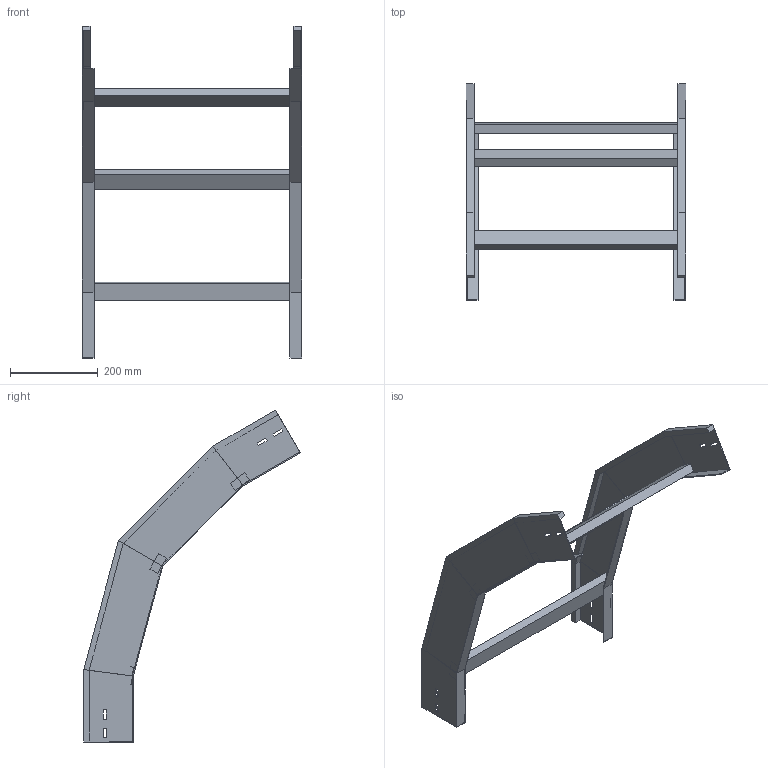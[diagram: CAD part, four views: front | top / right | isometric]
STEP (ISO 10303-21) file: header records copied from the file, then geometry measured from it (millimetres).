
FILE_DESCRIPTION (( 'STEP AP214' ), '1' );
FILE_NAME ('41B5J500.step', '2025-02-21T14:57:49', ( '' ), ( '' ), 'SwSTEP 2.0', 'SolidWorks 2023', '' );
FILE_SCHEMA (( 'AUTOMOTIVE_DESIGN' ));
Length unit declared in the file: millimetre
Products named in the file (3): 41B5J500; TRAVERSINO_500; LONGH.DISCESA_60°_H112.5_R500
Assembly tree (5 placements, depth 2):
  41B5J500
    LONGH.DISCESA_60°_H112.5_R500  x2
    TRAVERSINO_500  x3
Bounding box: 500 x 492.58 x 755.74 mm (x, y, z)
Volume: 2037281.3 mm3; surface area: 728757.2 mm2
Topology: 5 solids, 5 shells, 118 faces, 276 edges, 168 vertices
Faces by surface type: plane 118
Entity records: 1672 total; most frequent: CARTESIAN_POINT 276, ORIENTED_EDGE 264, DIRECTION 260, EDGE_CURVE 132, VECTOR 132, LINE 132, VERTEX_POINT 80, AXIS2_PLACEMENT_3D 64
